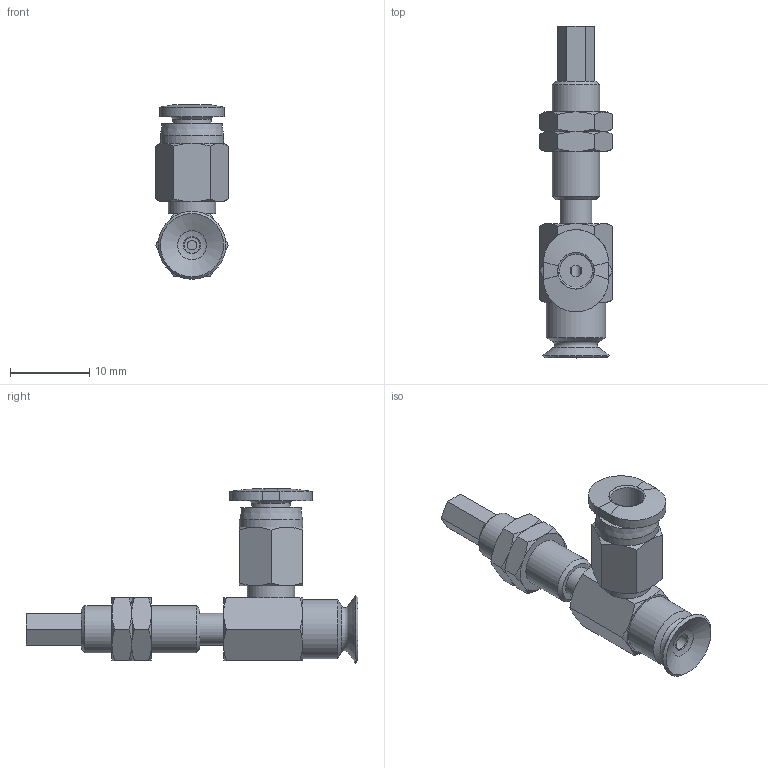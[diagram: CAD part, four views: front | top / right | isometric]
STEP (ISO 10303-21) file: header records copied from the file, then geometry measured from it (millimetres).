
FILE_DESCRIPTION(('STEP AP203'),'1');
FILE_NAME('-O.stp','2025-04-09T06:24:17',(' '),(' '),'Spatial InterOp 3D',' ',' ');
FILE_SCHEMA(('CONFIG_CONTROL_DESIGN'));
Length unit declared in the file: millimetre
Products named in the file (7): BNABPFYS-8A-3-※-O; CONNECTOR-8A-3; Nut-8A-3-s; NAPFTS-8A-3-FBODY; BPFG-8A-※; NAPFTS-8A-3-MBODY; PC-C_04-M3
Assembly tree (7 placements, depth 2):
  BNABPFYS-8A-3-※-O
    CONNECTOR-8A-3
    Nut-8A-3-s  x2
    NAPFTS-8A-3-FBODY
    BPFG-8A-※
    NAPFTS-8A-3-MBODY
    PC-C_04-M3
Bounding box: 9.24 x 42 x 22.07 mm (x, y, z)
Volume: 1467.9 mm3; surface area: 2977.1 mm2
Topology: 6 solids, 8 shells, 183 faces, 382 edges, 228 vertices
Faces by surface type: plane 73, cone 68, cylinder 24, torus 10, bspline 5, revolution 3
Full cylindrical faces by diameter (mm): 1.2 x1, 2 x1, 2.459 x2, 2.5 x2, 3 x2, 4 x4, 4.9 x1, 5.188 x2, 6 x4, 6.1 x1, 7.5 x1, 8 x1
Entity records: 4675 total; most frequent: CARTESIAN_POINT 1277, DIRECTION 635, ORIENTED_EDGE 548, AXIS2_PLACEMENT_3D 279, EDGE_CURVE 275, EDGE_LOOP 234, VERTEX_POINT 191, FACE_OUTER_BOUND 132
